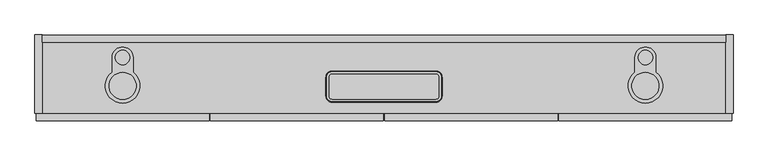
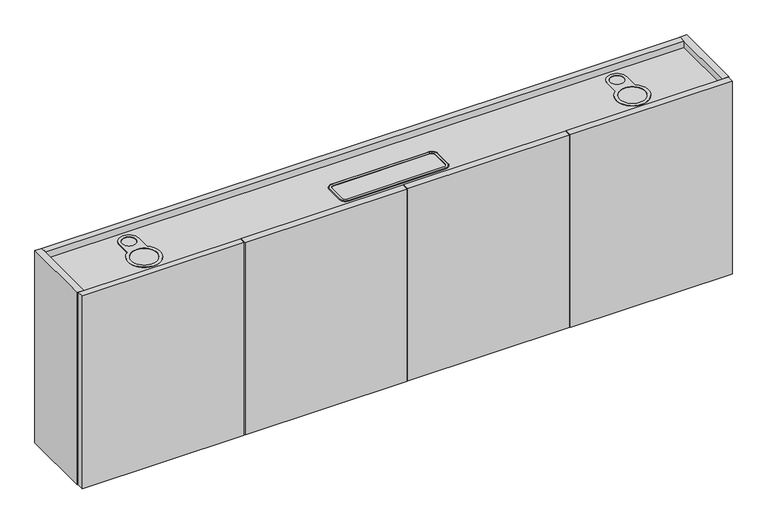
"""IFC4 building model written with IfcOpenShell, lengths in millimetres: furniture geometry, Geiger_GeigerOneCasegoods_UtilityCabinetForUseWithCredenzaDeskAccepts2Legs : Vertical Veneer 72Wx 8.875Dx 22.5H."""

import ifcopenshell
import ifcopenshell.guid

model = None  # the IFC model being written
_history = None  # IfcOwnerHistory: only IFC2X3 demands one
_inside = {}  # id of a spatial element -> (the spatial element, [elements in it])
_under = {}  # id of a project, library or spatial element -> (it, [spatial elements below it])
_declared = {}  # id of a project -> (the project, [libraries it declares])
_typed = {}  # id of a type object -> (the type object, [elements of that type])
_made_of = {}  # id of a material, layer set ... -> (it, [elements and type objects made of it])


def new_model(schema):
    """Start an empty IFC model of exactly this schema.

    Asked for "IFC4X3", IfcOpenShell would pick the latest addendum, in which some entities
    have other attributes; the version numbers below select the first issue.
    IFC2X3 requires an IfcOwnerHistory on every rooted entity: one is made here for all.
    """
    global model, _history
    if schema == "IFC4X3":
        model = ifcopenshell.file(schema_version=(4, 3, 0, 0))
    else:
        model = ifcopenshell.file(schema=schema)
    _inside.clear()
    _under.clear()
    _declared.clear()
    _typed.clear()
    _made_of.clear()
    _history = None
    if model.schema == "IFC2X3":
        org = make("IfcOrganization", Name="unknown")
        user = make(
            "IfcPersonAndOrganization",
            ThePerson=make("IfcPerson", FamilyName="unknown"),
            TheOrganization=org,
        )
        app = make(
            "IfcApplication",
            ApplicationDeveloper=org,
            Version="unknown",
            ApplicationFullName="unknown",
            ApplicationIdentifier="unknown",
        )
        _history = make(
            "IfcOwnerHistory",
            OwningUser=user,
            OwningApplication=app,
            ChangeAction="ADDED",
            CreationDate=0,
        )
    return model


def make(cls, **values):
    """One entity of the class cls with the attributes given. An attribute that is None is left unset."""
    return model.create_entity(
        cls, **{name: value for name, value in values.items() if value is not None}
    )


def rooted(cls, **values):
    """An entity with a GlobalId (a new one), such as an element, a storey or a relation."""
    return make(cls, GlobalId=ifcopenshell.guid.new(), OwnerHistory=_history, **values)


def si_unit(unit_type, name, prefix=None):
    """IfcSIUnit, for example si_unit("LENGTHUNIT", "METRE", prefix="MILLI")."""
    return make("IfcSIUnit", UnitType=unit_type, Prefix=prefix, Name=name)


def assignment(units):
    """IfcUnitAssignment: the units of a project."""
    return None if units is None else make("IfcUnitAssignment", Units=units)


def point(xyz):
    """IfcCartesianPoint."""
    return None if xyz is None else make("IfcCartesianPoint", Coordinates=xyz)


def direction(xyz):
    """IfcDirection."""
    return None if xyz is None else make("IfcDirection", DirectionRatios=xyz)


def frame(location, z_axis=None, x_axis=None):
    """IfcAxis2Placement3D, a coordinate frame: its origin and axes. An axis left out is left unset."""
    return make(
        "IfcAxis2Placement3D",
        Location=point(location),
        Axis=direction(z_axis),
        RefDirection=direction(x_axis),
    )


def origin():
    """The frame at (0, 0, 0) with its axes left unset."""
    return frame((0.0, 0.0, 0.0))


def place(relative_to, where):
    """IfcLocalPlacement: puts the frame where relative to a parent placement (None: the world)."""
    return make(
        "IfcLocalPlacement", PlacementRelTo=relative_to, RelativePlacement=where
    )


def context(
    kind, dimensions, precision=None, world=None, true_north=None, identifier=None
):
    """IfcGeometricRepresentationContext, for example the 3D "Model" context."""
    return make(
        "IfcGeometricRepresentationContext",
        ContextIdentifier=identifier,
        ContextType=kind,
        CoordinateSpaceDimension=dimensions,
        Precision=precision,
        WorldCoordinateSystem=world,
        TrueNorth=true_north,
    )


def project(units=None, contexts=None):
    """IfcProject with its units and contexts."""
    return rooted(
        "IfcProject",
        Name="project",
        RepresentationContexts=contexts,
        UnitsInContext=assignment(units),
    )


def spatial(cls, under=None, at=None, **own):
    """A site, building, storey or space (cls), placed at a placement, below another one or the project."""
    s = rooted(cls, ObjectPlacement=at, **own)
    if under is not None:
        _under.setdefault(under.id(), (under, []))[1].append(s)
    return s


def polyline(points):
    """IfcPolyline through the points."""
    return make("IfcPolyline", Points=[point(p) for p in points])


def circle_curve(where, radius):
    """IfcCircle in the frame where."""
    return make("IfcCircle", Position=where, Radius=radius)


def ellipse_curve(where, semi_axis1, semi_axis2):
    """IfcEllipse in the frame where."""
    return make(
        "IfcEllipse", Position=where, SemiAxis1=semi_axis1, SemiAxis2=semi_axis2
    )


def trimmed(basis, trim1, trim2, sense, master):
    """IfcTrimmedCurve: the piece of a basis curve between two trims."""
    return make(
        "IfcTrimmedCurve",
        BasisCurve=basis,
        Trim1=trim1,
        Trim2=trim2,
        SenseAgreement=sense,
        MasterRepresentation=master,
    )


def outline(outer, holes=None, kind="AREA"):
    """IfcArbitraryClosedProfileDef: a profile drawn as a closed curve; with holes, ...WithVoids."""
    if holes is None:
        return make("IfcArbitraryClosedProfileDef", ProfileType=kind, OuterCurve=outer)
    return make(
        "IfcArbitraryProfileDefWithVoids",
        ProfileType=kind,
        OuterCurve=outer,
        InnerCurves=holes,
    )


def extrude(swept, where, along, depth):
    """IfcExtrudedAreaSolid: the profile swept, set in the frame where, extruded along a direction by depth."""
    return make(
        "IfcExtrudedAreaSolid",
        SweptArea=swept,
        Position=where,
        ExtrudedDirection=direction(along),
        Depth=depth,
    )


def faces_of(points, faces, orient=None, outer=None):
    """IfcFace entities. A face is a list of loops; a loop is a list of indices into points, from 0.

    orient and outer hold one flag for each loop. By default every Orientation is true, the
    first loop of a face is its IfcFaceOuterBound and the others are IfcFaceBound.
    """
    made = []
    for i, loops in enumerate(faces):
        bounds = []
        for j, loop in enumerate(loops):
            is_outer = j == 0 if outer is None else outer[i][j]
            bounds.append(
                make(
                    "IfcFaceOuterBound" if is_outer else "IfcFaceBound",
                    Bound=make("IfcPolyLoop", Polygon=[points[k] for k in loop]),
                    Orientation=True if orient is None else orient[i][j],
                )
            )
        made.append(make("IfcFace", Bounds=bounds))
    return made


def faceted_brep(points, faces, orient=None, outer=None, voids=None):
    """IfcFacetedBrep: a solid bounded by flat faces; with voids (closed shells), ...WithVoids."""
    shared = [point(p) for p in points]
    hull = make("IfcClosedShell", CfsFaces=faces_of(shared, faces, orient, outer))
    if voids is None:
        return make("IfcFacetedBrep", Outer=hull)
    return make(
        "IfcFacetedBrepWithVoids",
        Outer=hull,
        Voids=[
            make(cls, CfsFaces=faces_of(shared, fs, o, b)) for cls, fs, o, b in voids
        ],
    )


def shape(context_of_items, identifier, shape_type, items):
    """IfcShapeRepresentation: the items that make up one representation, for example the "Body"."""
    return make(
        "IfcShapeRepresentation",
        ContextOfItems=context_of_items,
        RepresentationIdentifier=identifier,
        RepresentationType=shape_type,
        Items=items,
    )


def source(mapping_origin, context_of_items, identifier, shape_type, items):
    """IfcRepresentationMap: a shape defined once, which mapped items show again and again."""
    return make(
        "IfcRepresentationMap",
        MappingOrigin=mapping_origin,
        MappedRepresentation=shape(context_of_items, identifier, shape_type, items),
    )


def transform(
    local_origin,
    x_axis=None,
    y_axis=None,
    z_axis=None,
    scale=None,
    scale2=None,
    scale3=None,
    uniform=True,
):
    """IfcCartesianTransformationOperator3D, or its non-uniform kind. x_axis, y_axis, z_axis: its Axis1, 2, 3."""
    if uniform:
        return make(
            "IfcCartesianTransformationOperator3D",
            Axis1=direction(x_axis),
            Axis2=direction(y_axis),
            LocalOrigin=point(local_origin),
            Scale=scale,
            Axis3=direction(z_axis),
        )
    return make(
        "IfcCartesianTransformationOperator3DnonUniform",
        Axis1=direction(x_axis),
        Axis2=direction(y_axis),
        LocalOrigin=point(local_origin),
        Scale=scale,
        Axis3=direction(z_axis),
        Scale2=scale2,
        Scale3=scale3,
    )


def mapped(mapping_source, mapping_target):
    """IfcMappedItem: shows the shape of a source again, moved by a transform."""
    return make(
        "IfcMappedItem", MappingSource=mapping_source, MappingTarget=mapping_target
    )


def made_of(thing, what):
    """Note that an element or type object is made of a material, layer set ...; save() writes the relation."""
    if what is not None:
        _made_of.setdefault(what.id(), (what, []))[1].append(thing)
    return thing


def element(
    cls,
    number,
    at=None,
    inside=None,
    cuts=None,
    type_object=None,
    material=None,
    context=None,
    identifier="Body",
    shape_type=None,
    held_by="IfcProductDefinitionShape",
    body=None,
    shapes=None,
    **own,
):
    """One element of the class cls, such as IfcWall. Its Tag is "e" and its number.

    at: its placement. inside: the storey or other place that contains it. cuts: it is an
    opening in that element (IfcRelVoidsElement). A single representation is given by context,
    identifier, shape_type and body (its items); several are given by shapes. held_by: the class
    of the entity that holds the representations. save() writes the other relations.
    """
    e = rooted(cls, Tag="e%d" % number, ObjectPlacement=at, **own)
    if body is not None:
        shapes = [shape(context, identifier, shape_type, body)]
    if shapes is not None:
        e.Representation = make(held_by, Representations=shapes)
    if inside is not None:
        _inside.setdefault(inside.id(), (inside, []))[1].append(e)
    if cuts is not None:
        rooted(
            "IfcRelVoidsElement", RelatingBuildingElement=cuts, RelatedOpeningElement=e
        )
    if type_object is not None:
        _typed.setdefault(type_object.id(), (type_object, []))[1].append(e)
    return made_of(e, material)


def aggregate(whole, parts):
    """IfcRelAggregates: a whole, such as a stair, and the parts it consists of."""
    return rooted("IfcRelAggregates", RelatingObject=whole, RelatedObjects=parts)


def save(model, path):
    """Write the relations noted so far, then the file.

    IfcRelAggregates (storeys below a building ...), IfcRelContainedInSpatialStructure (elements
    in a storey), IfcRelDefinesByType, IfcRelAssociatesMaterial and IfcRelDeclares: one each for
    every whole, place, type object, material and project.
    """
    for whole, parts in _under.values():
        aggregate(whole, parts)
    for where, things in _inside.values():
        rooted(
            "IfcRelContainedInSpatialStructure",
            RelatedElements=things,
            RelatingStructure=where,
        )
    for kind, things in _typed.values():
        rooted("IfcRelDefinesByType", RelatedObjects=things, RelatingType=kind)
    for what, things in _made_of.values():
        rooted("IfcRelAssociatesMaterial", RelatedObjects=things, RelatingMaterial=what)
    for by, libraries in _declared.values():
        rooted("IfcRelDeclares", RelatingContext=by, RelatedDefinitions=libraries)
    model.write(path)


def plane_surface(at):
    """IfcPlane: the flat surface through the origin of the frame at, square to its z axis."""
    return make("IfcPlane", Position=at)


def cylinder_surface(at, radius):
    """IfcCylindricalSurface: all points at the distance radius from the z axis of the frame at."""
    return make("IfcCylindricalSurface", Position=at, Radius=radius)


def revolved_surface(curve, axis_point, axis_direction):
    """IfcSurfaceOfRevolution: the curve turned about the line through axis_point along axis_direction."""
    return make(
        "IfcSurfaceOfRevolution",
        SweptCurve=make("IfcArbitraryOpenProfileDef", ProfileType="CURVE", Curve=curve),
        AxisPosition=make("IfcAxis1Placement", Location=point(axis_point), Axis=direction(axis_direction)),
    )


def advanced_brep(points, edges, surfaces, faces):
    """IfcAdvancedBrep: a solid bounded by faces that lie on surfaces and meet in shared edges.

    An edge is (start, end): straight between two places in points (the first is 0);
    or (start, end, curve); or (start, end, curve, False) where it runs against its curve.
    A face is (place in surfaces, loops), or (place, loops, False) where it looks against
    its surface's normal. A loop lists edges by number (the first is 1), with a minus sign
    where the edge is run from its end to its start. The first loop is the outer one.
    """
    corners = [point(p) for p in points]
    vertices = [make("IfcVertexPoint", VertexGeometry=c) for c in corners]
    made = []
    for start, end, *more in edges:
        made.append(
            make(
                "IfcEdgeCurve",
                EdgeStart=vertices[start],
                EdgeEnd=vertices[end],
                EdgeGeometry=more[0] if more else make("IfcPolyline", Points=[corners[start], corners[end]]),
                SameSense=more[1] if len(more) > 1 else True,
            )
        )
    hull = []
    for where, loops, *sense in faces:
        bounds = []
        for j, loop in enumerate(loops):
            ring = [make("IfcOrientedEdge", EdgeElement=made[abs(k) - 1], Orientation=k > 0) for k in loop]
            bounds.append(
                make(
                    "IfcFaceOuterBound" if j == 0 else "IfcFaceBound",
                    Bound=make("IfcEdgeLoop", EdgeList=ring),
                    Orientation=True,
                )
            )
        hull.append(make("IfcAdvancedFace", Bounds=bounds, FaceSurface=surfaces[where], SameSense=sense[0] if sense else True))
    return make("IfcAdvancedBrep", Outer=make("IfcClosedShell", CfsFaces=hull))


def furniture_08fd8d59(model_context):
    return source(origin(), model_context, "Body", "SolidModel", [
        extrude(outline(polyline([(1380.85, -19.5), (1380.85, -205.425), (1361.85, -205.425), (1361.85, -19.5), (1380.85, -19.5)])), frame((0.0, 0.0, 12.7), z_axis=(0.0, 0.0, 1.0), x_axis=(1.0, 0.0, 0.0)), (0.0, 0.0, 1.0), 533.5),
        extrude(outline(polyline([(456.45, -225.425), (3.0, -225.425), (3.0, -206.425), (456.45, -206.425), (456.45, -225.425)])), frame((0.0, 0.0, 12.7), z_axis=(0.0, 0.0, 1.0), x_axis=(1.0, 0.0, 0.0)), (0.0, 0.0, 1.0), 571.5),
        extrude(outline(polyline([(912.9, -225.425), (459.45, -225.425), (459.45, -206.425), (912.9, -206.425), (912.9, -225.425)])), frame((0.0, 0.0, 12.7), z_axis=(0.0, 0.0, 1.0), x_axis=(1.0, 0.0, 0.0)), (0.0, 0.0, 1.0), 571.5),
        extrude(outline(polyline([(1369.35, -225.425), (915.9, -225.425), (915.9, -206.425), (1369.35, -206.425), (1369.35, -225.425)])), frame((0.0, 0.0, 12.7), z_axis=(0.0, 0.0, 1.0), x_axis=(1.0, 0.0, 0.0)), (0.0, 0.0, 1.0), 571.5),
        extrude(outline(polyline([(1825.8, -225.425), (1372.35, -225.425), (1372.35, -206.425), (1825.8, -206.425), (1825.8, -225.425)])), frame((0.0, 0.0, 12.7), z_axis=(0.0, 0.0, 1.0), x_axis=(1.0, 0.0, 0.0)), (0.0, 0.0, 1.0), 571.5),
        faceted_brep([(1809.8, -19.5, 584.2), (1809.8, -19.5, 29.0), (1809.8, -0.5, 29.0), (1809.8, -0.5, 584.2), (1809.8, -204.925, 156.0), (1809.8, -204.925, 29.0), (1809.8, -185.925, 29.0), (1809.8, -185.925, 156.0), (19.0, -19.5, 584.2), (19.0, -0.5, 584.2), (19.0, -0.5, 29.0), (19.0, -19.5, 29.0), (19.0, -204.925, 156.0), (19.0, -185.925, 156.0), (19.0, -185.925, 29.0), (19.0, -204.925, 29.0), (447.95, -19.5, 29.0), (447.95, -19.5, 546.2), (466.95, -19.5, 546.2), (466.95, -19.5, 29.0), (466.95, -204.925, 156.0), (466.95, -204.925, 29.0), (447.95, -204.925, 29.0), (447.95, -204.925, 156.0), (466.95, -185.925, 29.0), (447.95, -185.925, 29.0), (466.95, -185.925, 156.0), (447.95, -185.925, 156.0), (447.95, -205.425, 12.7), (447.95, -205.425, 546.2), (447.95, -19.5, 12.7), (466.95, -205.425, 12.7), (466.95, -19.5, 12.7), (466.95, -205.425, 546.2)], [[[0, 1, 2, 3]], [[4, 5, 6, 7]], [[8, 9, 10, 11]], [[12, 13, 14, 15]], [[1, 0, 8, 11, 16, 17, 18, 19]], [[2, 1, 19, 16, 11, 10]], [[3, 2, 10, 9]], [[0, 3, 9, 8]], [[5, 4, 20, 21]], [[12, 15, 22, 23]], [[6, 5, 21, 24]], [[15, 14, 25, 22]], [[7, 6, 24, 26]], [[14, 13, 27, 25]], [[4, 7, 26, 20]], [[13, 12, 23, 27]], [[28, 29, 17, 16, 30], [23, 22, 25, 27]], [[31, 32, 19, 18, 33], [21, 20, 26, 24]], [[29, 28, 31, 33]], [[17, 29, 33, 18]], [[32, 30, 16, 19]], [[28, 30, 32, 31]]]),
        extrude(outline(polyline([(1809.8, -19.5), (1809.8, -205.425), (19.0, -205.425), (19.0, -19.5), (1809.8, -19.5)])), frame((0.0, 0.0, 546.2), z_axis=(0.0, 0.0, 1.0), x_axis=(1.0, 0.0, 0.0)), (0.0, 0.0, 1.0), 19.0),
        extrude(outline(polyline([(19.0, -205.425), (0.0, -205.425), (0.0, 0.0), (19.0, 0.0), (19.0, -205.425)])), frame((0.0, 0.0, 12.7), z_axis=(0.0, 0.0, 1.0), x_axis=(1.0, 0.0, 0.0)), (0.0, 0.0, 1.0), 571.5),
        extrude(outline(polyline([(1828.8, -205.425), (1809.8, -205.425), (1809.8, 0.0), (1828.8, 0.0), (1828.8, -205.425)])), frame((0.0, 0.0, 12.7), z_axis=(0.0, 0.0, 1.0), x_axis=(1.0, 0.0, 0.0)), (0.0, 0.0, 1.0), 571.5),
        advanced_brep(
        [(763.1203563, -110.825, 566.7), (778.3, -95.6453563, 566.7), (778.3, -94.4172964, 565.2), (761.8922964, -110.825, 565.2), (761.8922964, -160.025, 565.2), (763.1203563, -160.025, 566.7), (778.3, -176.4327036, 565.2), (778.3, -175.2046437, 566.7), (1050.5, -176.4327036, 565.2), (1050.5, -175.2046437, 566.7), (1066.9077036, -160.025, 565.2), (1065.6796437, -160.025, 566.7), (1066.9077036, -110.825, 565.2), (1065.6796437, -110.825, 566.7), (1050.5, -94.4172964, 565.2), (1050.5, -95.6453563, 566.7), (778.3, -102.925, 566.7), (1050.5, -102.925, 566.7), (1058.4, -110.825, 566.7), (1058.4, -160.025, 566.7), (1050.5, -167.925, 566.7), (778.3, -167.925, 566.7), (770.4, -160.025, 566.7), (770.4, -110.825, 566.7), (770.4, -110.825, 566.001635), (778.3, -102.925, 566.001635), (770.4, -160.025, 566.001635), (778.3, -167.925, 566.001635), (1050.5, -167.925, 566.001635), (1058.4, -160.025, 566.001635), (1058.4, -110.825, 566.001635), (1050.5, -102.925, 566.001635)],
        [
            (0, 1, circle_curve(frame((778.3, -110.825, 566.7), z_axis=(0.0, 0.0, -1.0), x_axis=(0.0, 1.0, 0.0)), 15.1796437)),
            (1, 2, circle_curve(frame((778.3, -95.6453563, 565.4472896), z_axis=(-1.0, 0.0, 0.0), x_axis=(0.0, -1.0, 0.0)), 1.2527104)),
            (2, 3, circle_curve(frame((778.3, -110.825, 565.2), z_axis=(0.0, 0.0, 1.0), x_axis=(0.0, 1.0, 0.0)), 16.4077036)),
            (3, 0, circle_curve(frame((763.1203563, -110.825, 565.4472896), z_axis=(0.0, 1.0, 0.0), x_axis=(1.0, 0.0, 0.0)), 1.2527104)),
            (3, 4),
            (4, 5, circle_curve(frame((763.1203563, -160.025, 565.4472896), z_axis=(0.0, 1.0, 0.0), x_axis=(1.0, 0.0, 0.0)), 1.2527104)),
            (5, 0),
            (4, 6, circle_curve(frame((778.3, -160.025, 565.2), z_axis=(0.0, 0.0, 1.0), x_axis=(-1.0, 0.0, 0.0)), 16.4077036)),
            (6, 7, circle_curve(frame((778.3, -175.2046437, 565.4472896), z_axis=(-1.0, 0.0, 0.0), x_axis=(0.0, 1.0, 0.0)), 1.2527104)),
            (7, 5, circle_curve(frame((778.3, -160.025, 566.7), z_axis=(0.0, 0.0, -1.0), x_axis=(-1.0, 0.0, 0.0)), 15.1796437)),
            (6, 8),
            (8, 9, circle_curve(frame((1050.5, -175.2046437, 565.4472896), z_axis=(-1.0, 0.0, 0.0), x_axis=(0.0, 1.0, 0.0)), 1.2527104)),
            (9, 7),
            (8, 10, circle_curve(frame((1050.5, -160.025, 565.2), z_axis=(0.0, 0.0, 1.0), x_axis=(0.0, -1.0, 0.0)), 16.4077036)),
            (10, 11, circle_curve(frame((1065.6796437, -160.025, 565.4472896), z_axis=(0.0, -1.0, 0.0), x_axis=(-1.0, 0.0, 0.0)), 1.2527104)),
            (11, 9, circle_curve(frame((1050.5, -160.025, 566.7), z_axis=(0.0, 0.0, -1.0), x_axis=(0.0, -1.0, 0.0)), 15.1796437)),
            (10, 12),
            (12, 13, circle_curve(frame((1065.6796437, -110.825, 565.4472896), z_axis=(0.0, -1.0, 0.0), x_axis=(-1.0, 0.0, 0.0)), 1.2527104)),
            (13, 11),
            (12, 14, circle_curve(frame((1050.5, -110.825, 565.2), z_axis=(0.0, 0.0, 1.0), x_axis=(1.0, 0.0, 0.0)), 16.4077036)),
            (14, 15, circle_curve(frame((1050.5, -95.6453563, 565.4472896), z_axis=(1.0, 0.0, 0.0), x_axis=(0.0, -1.0, 0.0)), 1.2527104)),
            (15, 13, circle_curve(frame((1050.5, -110.825, 566.7), z_axis=(0.0, 0.0, -1.0), x_axis=(1.0, 0.0, 0.0)), 15.1796437)),
            (1, 15),
            (14, 2),
            (16, 17),
            (17, 18, circle_curve(frame((1050.5, -110.825, 566.7), z_axis=(0.0, 0.0, -1.0), x_axis=(1.0, 0.0, 0.0)), 7.9)),
            (18, 19),
            (19, 20, circle_curve(frame((1050.5, -160.025, 566.7), z_axis=(0.0, 0.0, -1.0), x_axis=(0.0, -1.0, 0.0)), 7.9)),
            (20, 21),
            (21, 22, circle_curve(frame((778.3, -160.025, 566.7), z_axis=(0.0, 0.0, -1.0), x_axis=(-1.0, 0.0, 0.0)), 7.9)),
            (22, 23),
            (23, 16, circle_curve(frame((778.3, -110.825, 566.7), z_axis=(0.0, 0.0, -1.0), x_axis=(0.0, 1.0, 0.0)), 7.9)),
            (23, 24),
            (24, 25, circle_curve(frame((778.3, -110.825, 566.001635), z_axis=(0.0, 0.0, -1.0), x_axis=(0.0, 1.0, 0.0)), 7.9)),
            (25, 16),
            (22, 26),
            (26, 24),
            (21, 27),
            (27, 26, circle_curve(frame((778.3, -160.025, 566.001635), z_axis=(0.0, 0.0, -1.0), x_axis=(-1.0, 0.0, 0.0)), 7.9)),
            (20, 28),
            (28, 27),
            (19, 29),
            (29, 28, circle_curve(frame((1050.5, -160.025, 566.001635), z_axis=(0.0, 0.0, -1.0), x_axis=(0.0, -1.0, 0.0)), 7.9)),
            (18, 30),
            (30, 29),
            (17, 31),
            (31, 30, circle_curve(frame((1050.5, -110.825, 566.001635), z_axis=(0.0, 0.0, -1.0), x_axis=(1.0, 0.0, 0.0)), 7.9)),
            (25, 31),
        ],
        [
            revolved_surface(trimmed(ellipse_curve(frame((778.3, -95.6453563, 565.4472896), z_axis=(1.0, 0.0, 0.0), x_axis=(0.0, -1.0, 0.0)), 1.2527104, 1.2527104), [point((778.3, -94.4172964, 565.2))], [point((778.3, -95.6453563, 566.7))], True, "CARTESIAN"), (778.3, -110.825, 565.2), (0.0, 0.0, 1.0)),
            cylinder_surface(frame((763.1203563, -110.825, 565.4472896), z_axis=(0.0, 1.0, 0.0), x_axis=(1.0, 0.0, 0.0)), 1.2527104),
            revolved_surface(trimmed(ellipse_curve(frame((763.1203563, -160.025, 565.4472896), z_axis=(0.0, 1.0, 0.0), x_axis=(1.0, 0.0, 0.0)), 1.2527104, 1.2527104), [point((761.8922964, -160.025, 565.2))], [point((763.1203563, -160.025, 566.7))], True, "CARTESIAN"), (778.3, -160.025, 565.2), (0.0, 0.0, 1.0)),
            cylinder_surface(frame((778.3, -175.2046437, 565.4472896), z_axis=(-1.0, 0.0, 0.0), x_axis=(0.0, 1.0, 0.0)), 1.2527104),
            revolved_surface(trimmed(ellipse_curve(frame((1050.5, -175.2046437, 565.4472896), z_axis=(-1.0, 0.0, 0.0), x_axis=(0.0, 1.0, 0.0)), 1.2527104, 1.2527104), [point((1050.5, -176.4327036, 565.2))], [point((1050.5, -175.2046437, 566.7))], True, "CARTESIAN"), (1050.5, -160.025, 565.2), (0.0, 0.0, 1.0)),
            cylinder_surface(frame((1065.6796437, -160.025, 565.4472896), z_axis=(0.0, -1.0, 0.0), x_axis=(-1.0, 0.0, 0.0)), 1.2527104),
            revolved_surface(trimmed(ellipse_curve(frame((1065.6796437, -110.825, 565.4472896), z_axis=(0.0, -1.0, 0.0), x_axis=(-1.0, 0.0, 0.0)), 1.2527104, 1.2527104), [point((1066.9077036, -110.825, 565.2))], [point((1065.6796437, -110.825, 566.7))], True, "CARTESIAN"), (1050.5, -110.825, 565.2), (0.0, 0.0, 1.0)),
            cylinder_surface(frame((1050.5, -95.6453563, 565.4472896), z_axis=(1.0, 0.0, 0.0), x_axis=(0.0, -1.0, 0.0)), 1.2527104),
            plane_surface(frame((1050.5, -95.6453563, 566.7), z_axis=(0.0, 0.0, 1.0), x_axis=(-1.0, 0.0, 0.0))),
            revolved_surface(polyline([(778.3, -102.925, 566.7), (778.3, -102.925, 566.001635)]), (778.3, -110.825, 565.2), (0.0, 0.0, 1.0)),
            plane_surface(frame((770.4, -110.825, 566.7), z_axis=(1.0, 0.0, 0.0), x_axis=(0.0, -1.0, 0.0))),
            revolved_surface(polyline([(770.4, -160.025, 566.7), (770.4, -160.025, 566.001635)]), (778.3, -160.025, 565.2), (0.0, 0.0, 1.0)),
            plane_surface(frame((778.3, -167.925, 566.7), z_axis=(0.0, 1.0, 0.0), x_axis=(1.0, 0.0, 0.0))),
            revolved_surface(polyline([(1050.5, -167.925, 566.7), (1050.5, -167.925, 566.001635)]), (1050.5, -160.025, 565.2), (0.0, 0.0, 1.0)),
            plane_surface(frame((1058.4, -160.025, 566.7), z_axis=(-1.0, 0.0, 0.0), x_axis=(0.0, 1.0, 0.0))),
            revolved_surface(polyline([(1058.4, -110.825, 566.7), (1058.4, -110.825, 566.001635)]), (1050.5, -110.825, 565.2), (0.0, 0.0, 1.0)),
            plane_surface(frame((1050.5, -102.925, 566.7), z_axis=(0.0, -1.0, 0.0), x_axis=(-1.0, 0.0, 0.0))),
            plane_surface(frame((1050.5, -102.925, 565.2), z_axis=(0.0, 0.0, -1.0), x_axis=(-1.0, 0.0, 0.0))),
            plane_surface(frame((778.3, -102.925, 566.001635), z_axis=(0.0, 0.0, 1.0), x_axis=(-1.0, 0.0, 0.0))),
        ],
        [
            (0, [[1, 2, 3, 4]]),
            (1, [[-4, 5, 6, 7]]),
            (2, [[-6, 8, 9, 10]]),
            (3, [[-9, 11, 12, 13]]),
            (4, [[-12, 14, 15, 16]]),
            (5, [[-15, 17, 18, 19]]),
            (6, [[-18, 20, 21, 22]]),
            (7, [[-2, 23, -21, 24]]),
            (8, [[-1, -7, -10, -13, -16, -19, -22, -23], [25, 26, 27, 28, 29, 30, 31, 32]]),
            (9, [[-32, 33, 34, 35]]),
            (10, [[-31, 36, 37, -33]]),
            (11, [[-30, 38, 39, -36]]),
            (12, [[-29, 40, 41, -38]]),
            (13, [[-28, 42, 43, -40]]),
            (14, [[-27, 44, 45, -42]]),
            (15, [[-26, 46, 47, -44]]),
            (16, [[-25, -35, 48, -46]]),
            (17, [[-3, -24, -20, -17, -14, -11, -8, -5]]),
            (18, [[-34, -37, -39, -41, -43, -45, -47, -48]]),
        ],
    ),
        advanced_brep(
        [(257.1, -97.7340661, 565.2), (202.1, -97.7340661, 565.2), (202.1, -59.2643843, 565.2), (257.1, -59.2643843, 565.2), (257.1, -97.7340661, 566.8), (257.1, -59.2643843, 566.8), (202.1, -59.2643843, 566.8), (202.1, -97.7340661, 566.8), (229.6, -78.1957393, 566.8), (229.6, -40.3330294, 566.8), (229.6, -168.9040899, 566.8), (229.6, -98.0446387, 566.8), (229.6, -78.1957393, 566.001635), (229.6, -40.3330294, 566.001635), (229.6, -168.9040899, 566.001635), (229.6, -98.0446387, 566.001635)],
        [
            (0, 1, circle_curve(frame((229.6, -133.4743643, 565.2), z_axis=(0.0, 0.0, -1.0), x_axis=(0.0, 1.0, 0.0)), 45.095664)),
            (1, 2),
            (2, 3, circle_curve(frame((229.6, -59.2643843, 565.2), z_axis=(0.0, 0.0, -1.0), x_axis=(0.0, 1.0, 0.0)), 27.5)),
            (3, 0),
            (4, 5),
            (5, 6, circle_curve(frame((229.6, -59.2643843, 566.8), z_axis=(0.0, 0.0, 1.0), x_axis=(0.0, 1.0, 0.0)), 27.5)),
            (6, 7),
            (7, 4, circle_curve(frame((229.6, -133.4743643, 566.8), z_axis=(0.0, 0.0, 1.0), x_axis=(0.0, 1.0, 0.0)), 45.095664)),
            (8, 9, circle_curve(frame((229.6, -59.2643843, 566.8), z_axis=(0.0, 0.0, -1.0), x_axis=(0.0, 1.0, 0.0)), 18.931355)),
            (9, 8, circle_curve(frame((229.6, -59.2643843, 566.8), z_axis=(0.0, 0.0, -1.0), x_axis=(0.0, 1.0, 0.0)), 18.931355)),
            (10, 11, circle_curve(frame((229.6, -133.4743643, 566.8), z_axis=(0.0, 0.0, -1.0), x_axis=(0.0, 1.0, 0.0)), 35.4297256)),
            (11, 10, circle_curve(frame((229.6, -133.4743643, 566.8), z_axis=(0.0, 0.0, -1.0), x_axis=(0.0, 1.0, 0.0)), 35.4297256)),
            (3, 5),
            (4, 0),
            (2, 6),
            (1, 7),
            (8, 12),
            (12, 13, circle_curve(frame((229.6, -59.2643843, 566.001635), z_axis=(0.0, 0.0, -1.0), x_axis=(0.0, 1.0, 0.0)), 18.931355)),
            (13, 9),
            (13, 12, circle_curve(frame((229.6, -59.2643843, 566.001635), z_axis=(0.0, 0.0, -1.0), x_axis=(0.0, 1.0, 0.0)), 18.931355)),
            (10, 14),
            (14, 15, circle_curve(frame((229.6, -133.4743643, 566.001635), z_axis=(0.0, 0.0, -1.0), x_axis=(0.0, 1.0, 0.0)), 35.4297256)),
            (15, 11),
            (15, 14, circle_curve(frame((229.6, -133.4743643, 566.001635), z_axis=(0.0, 0.0, -1.0), x_axis=(0.0, 1.0, 0.0)), 35.4297256)),
        ],
        [
            plane_surface(frame((229.6, -185.925, 565.2), z_axis=(0.0, 0.0, -1.0), x_axis=(-1.0, 0.0, 0.0))),
            plane_surface(frame((229.6, -185.925, 566.8), z_axis=(0.0, 0.0, 1.0), x_axis=(-1.0, 0.0, 0.0))),
            plane_surface(frame((257.1, -59.2643843, 565.2), z_axis=(1.0, 0.0, 0.0), x_axis=(0.0, 0.0, 1.0))),
            cylinder_surface(frame((229.6, -59.2643843, 565.2), z_axis=(0.0, 0.0, -1.0), x_axis=(0.0, 1.0, 0.0)), 27.5),
            plane_surface(frame((202.1, -97.7340661, 565.2), z_axis=(-1.0, 0.0, 0.0), x_axis=(0.0, 0.0, 1.0))),
            cylinder_surface(frame((229.6, -133.4743643, 565.2), z_axis=(0.0, 0.0, -1.0), x_axis=(0.0, 1.0, 0.0)), 45.095664),
            revolved_surface(polyline([(229.6, -40.33302930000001, 566.8), (229.6, -40.33302930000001, 566.001635)]), (229.6, -59.2643843, 565.2), (0.0, 0.0, 1.0)),
            revolved_surface(polyline([(229.6, -98.0446387, 566.8), (229.6, -98.0446387, 566.001635)]), (229.6, -133.4743643, 565.2), (0.0, 0.0, 1.0)),
            plane_surface(frame((210.668645, -59.2643843, 566.001635), z_axis=(0.0, 0.0, 1.0), x_axis=(0.0, -1.0, 0.0))),
        ],
        [
            (0, [[1, 2, 3, 4]]),
            (1, [[5, 6, 7, 8], [9, 10], [11, 12]]),
            (2, [[-4, 13, -5, 14]]),
            (3, [[-3, 15, -6, -13]]),
            (4, [[-2, 16, -7, -15]]),
            (5, [[-1, -14, -8, -16]]),
            (6, [[-9, 17, 18, 19]]),
            (6, [[-10, -19, 20, -17]]),
            (7, [[-11, 21, 22, 23]]),
            (7, [[-12, -23, 24, -21]]),
            (8, [[-18, -20]]),
            (8, [[-22, -24]]),
        ],
    ),
        advanced_brep(
        [(1571.7, -97.7340661, 565.2), (1571.7, -59.2643843, 565.2), (1626.7, -59.2643843, 565.2), (1626.7, -97.7340661, 565.2), (1571.7, -97.7340661, 566.8), (1626.7, -97.7340661, 566.8), (1626.7, -59.2643843, 566.8), (1571.7, -59.2643843, 566.8), (1599.2, -40.3330294, 566.8), (1599.2, -78.1957393, 566.8), (1599.2, -98.0446387, 566.8), (1599.2, -168.9040899, 566.8), (1599.2, -78.1957393, 566.1909845), (1599.2, -40.3330294, 566.1909845), (1599.2, -168.9040899, 566.1909845), (1599.2, -98.0446387, 566.1909845)],
        [
            (0, 1),
            (1, 2, circle_curve(frame((1599.2, -59.2643843, 565.2), z_axis=(0.0, 0.0, -1.0), x_axis=(0.0, -1.0, 0.0)), 27.5)),
            (2, 3),
            (3, 0, circle_curve(frame((1599.2, -133.4743643, 565.2), z_axis=(0.0, 0.0, -1.0), x_axis=(0.0, -1.0, 0.0)), 45.095664)),
            (4, 5, circle_curve(frame((1599.2, -133.4743643, 566.8), z_axis=(0.0, 0.0, 1.0), x_axis=(0.0, -1.0, 0.0)), 45.095664)),
            (5, 6),
            (6, 7, circle_curve(frame((1599.2, -59.2643843, 566.8), z_axis=(0.0, 0.0, 1.0), x_axis=(0.0, -1.0, 0.0)), 27.5)),
            (7, 4),
            (8, 9, circle_curve(frame((1599.2, -59.2643843, 566.8), z_axis=(0.0, 0.0, -1.0), x_axis=(0.0, -1.0, 0.0)), 18.931355)),
            (9, 8, circle_curve(frame((1599.2, -59.2643843, 566.8), z_axis=(0.0, 0.0, -1.0), x_axis=(0.0, -1.0, 0.0)), 18.931355)),
            (10, 11, circle_curve(frame((1599.2, -133.4743643, 566.8), z_axis=(0.0, 0.0, -1.0), x_axis=(0.0, -1.0, 0.0)), 35.4297256)),
            (11, 10, circle_curve(frame((1599.2, -133.4743643, 566.8), z_axis=(0.0, 0.0, -1.0), x_axis=(0.0, -1.0, 0.0)), 35.4297256)),
            (0, 4),
            (7, 1),
            (6, 2),
            (5, 3),
            (9, 12),
            (12, 13, circle_curve(frame((1599.2, -59.2643843, 566.1909845), z_axis=(0.0, 0.0, -1.0), x_axis=(0.0, -1.0, 0.0)), 18.931355)),
            (13, 8),
            (13, 12, circle_curve(frame((1599.2, -59.2643843, 566.1909845), z_axis=(0.0, 0.0, -1.0), x_axis=(0.0, -1.0, 0.0)), 18.931355)),
            (11, 14),
            (14, 15, circle_curve(frame((1599.2, -133.4743643, 566.1909845), z_axis=(0.0, 0.0, -1.0), x_axis=(0.0, -1.0, 0.0)), 35.4297256)),
            (15, 10),
            (15, 14, circle_curve(frame((1599.2, -133.4743643, 566.1909845), z_axis=(0.0, 0.0, -1.0), x_axis=(0.0, -1.0, 0.0)), 35.4297256)),
        ],
        [
            plane_surface(frame((1599.2, -185.925, 565.2), z_axis=(0.0, 0.0, -1.0), x_axis=(1.0, 0.0, 0.0))),
            plane_surface(frame((1599.2, -185.925, 566.8), z_axis=(0.0, 0.0, 1.0), x_axis=(1.0, 0.0, 0.0))),
            plane_surface(frame((1571.7, -97.7340661, 565.2), z_axis=(-1.0, 0.0, 0.0), x_axis=(0.0, 0.0, 1.0))),
            cylinder_surface(frame((1599.2, -59.2643843, 565.2), z_axis=(0.0, 0.0, -1.0), x_axis=(0.0, -1.0, 0.0)), 27.5),
            plane_surface(frame((1626.7, -59.2643843, 565.2), z_axis=(1.0, 0.0, 0.0), x_axis=(0.0, 0.0, 1.0))),
            cylinder_surface(frame((1599.2, -133.4743643, 565.2), z_axis=(0.0, 0.0, -1.0), x_axis=(0.0, -1.0, 0.0)), 45.095664),
            revolved_surface(polyline([(1599.2, -78.1957393, 566.8), (1599.2, -78.1957393, 566.1909845)]), (1599.2, -59.2643843, 565.2), (0.0, 0.0, 1.0)),
            revolved_surface(polyline([(1599.2, -168.90408989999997, 566.8), (1599.2, -168.90408989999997, 566.1909845)]), (1599.2, -133.4743643, 565.2), (0.0, 0.0, 1.0)),
            plane_surface(frame((1580.268645, -59.2643843, 566.1909845), z_axis=(0.0, 0.0, 1.0), x_axis=(0.0, -1.0, 0.0))),
        ],
        [
            (0, [[1, 2, 3, 4]]),
            (1, [[5, 6, 7, 8], [9, 10], [11, 12]]),
            (2, [[-1, 13, -8, 14]]),
            (3, [[-2, -14, -7, 15]]),
            (4, [[-3, -15, -6, 16]]),
            (5, [[-4, -16, -5, -13]]),
            (6, [[-10, 17, 18, 19]]),
            (6, [[-9, -19, 20, -17]]),
            (7, [[-12, 21, 22, 23]]),
            (7, [[-11, -23, 24, -21]]),
            (8, [[-18, -20]]),
            (8, [[-22, -24]]),
        ],
    ),
    ])


if __name__ == "__main__":
    model = new_model("IFC4")
    model_context = context("Model", 3, world=origin())
    ifc_project = project(units=[si_unit("LENGTHUNIT", "METRE", prefix="MILLI")], contexts=[model_context])
    site = spatial("IfcSite", under=ifc_project)
    building = spatial("IfcBuilding", under=site)
    placement = place(None, origin())
    furniture_shape = furniture_08fd8d59(model_context)
    element("IfcFurniture", 1, ObjectType="Geiger_GeigerOneCasegoods_UtilityCabinetForUseWithCredenzaDeskAccepts2Legs : Vertical Veneer 72Wx 8.875Dx 22.5H", at=placement, inside=building, context=model_context, shape_type="MappedRepresentation", body=[
        mapped(furniture_shape, transform((0.0, 0.0, 0.0), x_axis=(1.0, 0.0, 0.0), y_axis=(0.0, 1.0, 0.0), z_axis=(0.0, 0.0, 1.0))),
    ])
    save(model, "model.ifc")
